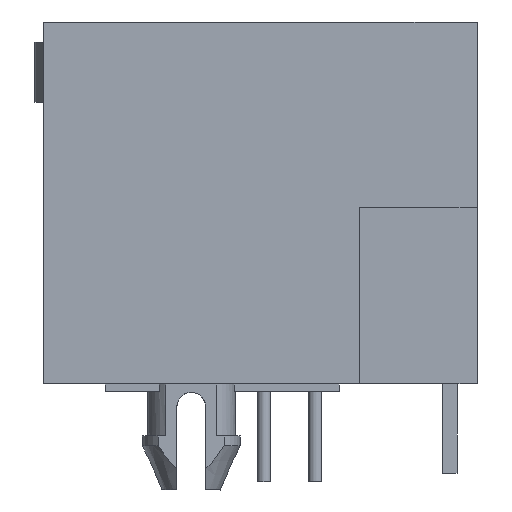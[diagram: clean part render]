
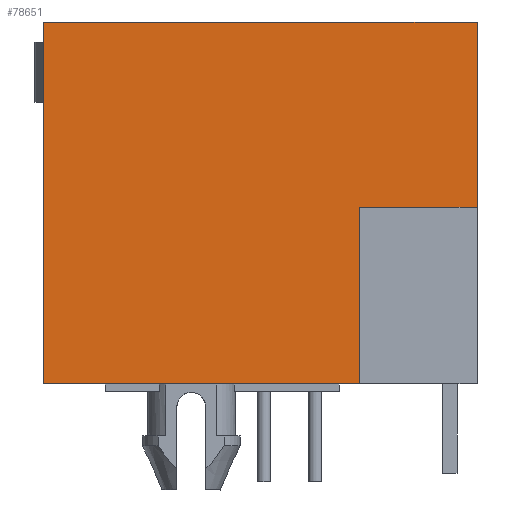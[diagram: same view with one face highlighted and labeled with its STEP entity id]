
A CAD part, front view. The second image highlights one B-rep face of the part: STEP entity #78651.
In plain terms, the highlighted planar face has unit normal (0, -1, 0).
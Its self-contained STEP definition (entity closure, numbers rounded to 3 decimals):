
#59742=DIRECTION('',(1.,0.,0.));
#59743=VECTOR('',#59742,11.);
#59744=CARTESIAN_POINT('',(-7.751,-78.9,3.69));
#59745=LINE('',#59744,#59743);
#59922=DIRECTION('',(0.,0.,1.));
#59923=VECTOR('',#59922,6.15);
#59924=CARTESIAN_POINT('',(3.249,-78.9,3.69));
#59925=LINE('',#59924,#59923);
#59930=DIRECTION('',(0.,0.,1.));
#59931=VECTOR('',#59930,12.6);
#59932=CARTESIAN_POINT('',(-7.751,-78.9,3.69));
#59933=LINE('',#59932,#59931);
#59934=DIRECTION('',(1.,0.,0.));
#59935=VECTOR('',#59934,15.1);
#59936=CARTESIAN_POINT('',(-7.751,-78.9,16.29));
#59937=LINE('',#59936,#59935);
#59938=DIRECTION('',(0.,0.,-1.));
#59939=VECTOR('',#59938,6.45);
#59940=CARTESIAN_POINT('',(7.349,-78.9,16.29));
#59941=LINE('',#59940,#59939);
#59942=DIRECTION('',(-1.,0.,0.));
#59943=VECTOR('',#59942,4.1);
#59944=CARTESIAN_POINT('',(7.349,-78.9,9.84));
#59945=LINE('',#59944,#59943);
#73690=CARTESIAN_POINT('',(-7.751,-78.9,3.69));
#73691=VERTEX_POINT('',#73690);
#73692=CARTESIAN_POINT('',(3.249,-78.9,3.69));
#73693=VERTEX_POINT('',#73692);
#73774=CARTESIAN_POINT('',(3.249,-78.9,9.84));
#73775=VERTEX_POINT('',#73774);
#73776=CARTESIAN_POINT('',(-7.751,-78.9,16.29));
#73777=VERTEX_POINT('',#73776);
#73778=CARTESIAN_POINT('',(7.349,-78.9,16.29));
#73779=VERTEX_POINT('',#73778);
#73780=CARTESIAN_POINT('',(7.349,-78.9,9.84));
#73781=VERTEX_POINT('',#73780);
#78634=CARTESIAN_POINT('',(-0.201,-78.9,9.99));
#78635=DIRECTION('',(0.,1.,0.));
#78636=DIRECTION('',(0.,0.,-1.));
#78637=AXIS2_PLACEMENT_3D('',#78634,#78635,#78636);
#78638=PLANE('',#78637);
#78639=ORIENTED_EDGE('',*,*,#78626,.F.);
#78640=ORIENTED_EDGE('',*,*,#78503,.F.);
#78642=ORIENTED_EDGE('',*,*,#78641,.T.);
#78644=ORIENTED_EDGE('',*,*,#78643,.T.);
#78646=ORIENTED_EDGE('',*,*,#78645,.T.);
#78648=ORIENTED_EDGE('',*,*,#78647,.T.);
#78649=EDGE_LOOP('',(#78639,#78640,#78642,#78644,#78646,#78648));
#78650=FACE_OUTER_BOUND('',#78649,.F.);
#78651=ADVANCED_FACE('',(#78650),#78638,.F.);
#78503=EDGE_CURVE('',#73691,#73693,#59745,.T.);
#78626=EDGE_CURVE('',#73693,#73775,#59925,.T.);
#78641=EDGE_CURVE('',#73691,#73777,#59933,.T.);
#78643=EDGE_CURVE('',#73777,#73779,#59937,.T.);
#78645=EDGE_CURVE('',#73779,#73781,#59941,.T.);
#78647=EDGE_CURVE('',#73781,#73775,#59945,.T.);
